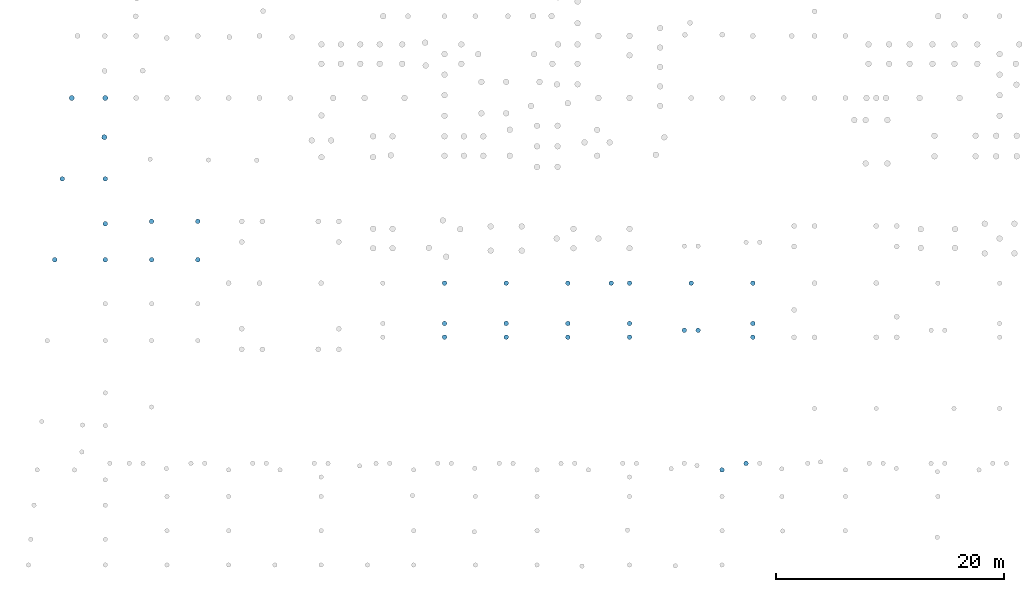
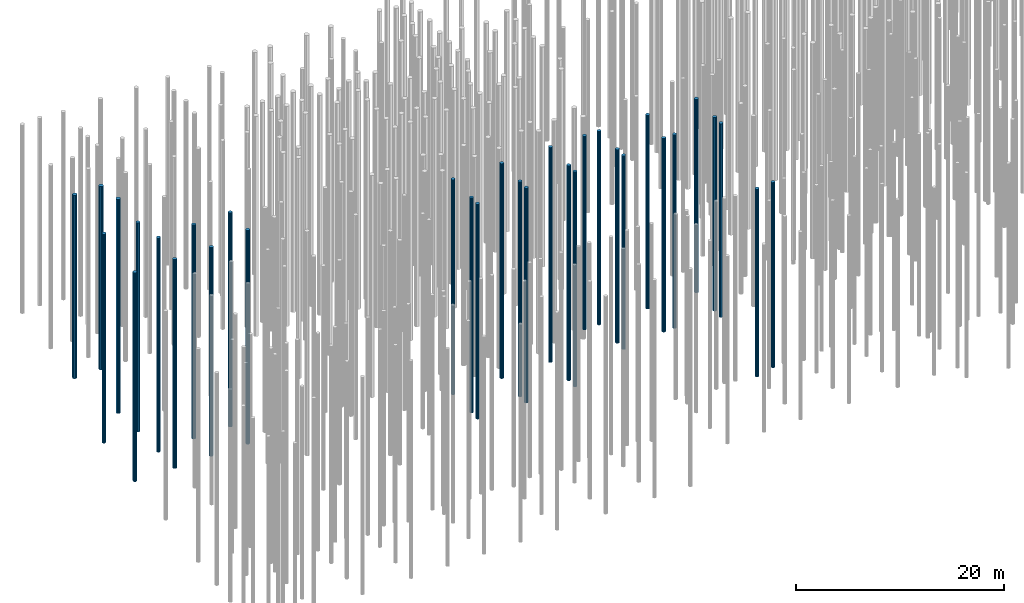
# One storey, part 4 of 20: 33 piles.
"""IFC2X3 building model written with IfcOpenShell, lengths in millimetres."""

from ifc_helpers import new_model, entity, si_unit, converted_unit, derived_unit, direction, frame, origin, place, context, subcontext, project, spatial, polyline, outline, extrude, material, element, save


model = new_model("IFC2X3")

# Units and contexts
model_context = context("Model", 3, precision=0.01, world=origin(), true_north=direction((6.12303176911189e-17, 1.0)))
body_context = subcontext(model_context, "Body", "Model", "MODEL_VIEW")
ifc_project = project(units=[si_unit("LENGTHUNIT", "METRE", prefix="MILLI"), si_unit("AREAUNIT", "SQUARE_METRE"), si_unit("VOLUMEUNIT", "CUBIC_METRE"), converted_unit("PLANEANGLEUNIT", "DEGREE", entity("IfcRatioMeasure", 0.0174532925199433), si_unit("PLANEANGLEUNIT", "RADIAN"), dimensions=[0, 0, 0, 0, 0, 0, 0]), si_unit("MASSUNIT", "GRAM", prefix="KILO"), derived_unit("MASSDENSITYUNIT", [(si_unit("MASSUNIT", "GRAM", prefix="KILO"), 1), (si_unit("LENGTHUNIT", "METRE"), -3)]), si_unit("TIMEUNIT", "SECOND"), si_unit("FREQUENCYUNIT", "HERTZ"), si_unit("THERMODYNAMICTEMPERATUREUNIT", "DEGREE_CELSIUS"), derived_unit("THERMALTRANSMITTANCEUNIT", [(si_unit("MASSUNIT", "GRAM", prefix="KILO"), 1), (si_unit("THERMODYNAMICTEMPERATUREUNIT", "KELVIN"), -1), (si_unit("TIMEUNIT", "SECOND"), -3)]), derived_unit("VOLUMETRICFLOWRATEUNIT", [(si_unit("LENGTHUNIT", "METRE"), 3), (si_unit("TIMEUNIT", "SECOND"), -1)]), si_unit("ELECTRICCURRENTUNIT", "AMPERE"), si_unit("ELECTRICVOLTAGEUNIT", "VOLT"), si_unit("POWERUNIT", "WATT"), si_unit("FORCEUNIT", "NEWTON", prefix="KILO"), si_unit("ILLUMINANCEUNIT", "LUX"), si_unit("LUMINOUSFLUXUNIT", "LUMEN"), si_unit("LUMINOUSINTENSITYUNIT", "CANDELA"), derived_unit("USERDEFINED", [(si_unit("MASSUNIT", "GRAM", prefix="KILO"), -1), (si_unit("LENGTHUNIT", "METRE"), -2), (si_unit("TIMEUNIT", "SECOND"), 3), (si_unit("LUMINOUSFLUXUNIT", "LUMEN"), 1)]), derived_unit("LINEARVELOCITYUNIT", [(si_unit("LENGTHUNIT", "METRE"), 1), (si_unit("TIMEUNIT", "SECOND"), -1)]), si_unit("PRESSUREUNIT", "PASCAL"), derived_unit("USERDEFINED", [(si_unit("LENGTHUNIT", "METRE"), -2), (si_unit("MASSUNIT", "GRAM", prefix="KILO"), 1), (si_unit("TIMEUNIT", "SECOND"), -2)])], contexts=[model_context])

# Site, building, storey
site_placement = place(None, origin())
site = spatial("IfcSite", under=ifc_project, at=site_placement, Name="Default", CompositionType="ELEMENT")
building_placement = place(site_placement, origin())
building = spatial("IfcBuilding", under=site, at=building_placement, Name="niet gebruiken", CompositionType="ELEMENT")
storey_placement = place(building_placement, frame((0.0, 0.0, -4000.0)))
storey = spatial("IfcBuildingStorey", under=building, at=storey_placement, Name="Level t.b.v. palenplan", CompositionType="ELEMENT", Elevation=-4000.0)

# Piles
ifc_material = material(Name="NLRS_f2_beton ihwg")
pile_1_placement = place(storey_placement, origin())
element("IfcPile", 1, at=pile_1_placement, inside=storey, material=ifc_material, Name="NLRS_17.12_SFO_TLB_funderingspaal grondverdringend_gen:Fundex_r410/500", ObjectType="NLRS_17.12_SFO_TLB_funderingspaal grondverdringend_gen:Fundex_r410/500", context=body_context, shape_type="SweptSolid", body=[
    extrude(outline(polyline([(-49.0597111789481, -199.043072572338), (49.0597111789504, -199.043072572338), (135.940144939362, -153.444703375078), (191.67832975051, -72.6940018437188), (203.505319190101, 24.7100194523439), (168.711692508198, 116.453273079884), (95.2682502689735, 181.518485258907), (49.0597111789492, 199.043072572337), (-49.0597111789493, 199.043072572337), (-135.940144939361, 153.444703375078), (-191.67832975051, 72.6940018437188), (-203.505319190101, -24.7100194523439), (-168.711692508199, -116.453273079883), (-95.2682502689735, -181.518485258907), (-49.0597111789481, -199.043072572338)])), frame((62100.0, 8621.0, -19100.0), z_axis=(0.0, 0.0, 1.0), x_axis=(0.239315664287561, -0.970941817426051, 0.0)), (0.0, 0.0, 1.0), 22028.0),
])
pile_2_placement = place(storey_placement, origin())
element("IfcPile", 2, at=pile_2_placement, inside=storey, material=ifc_material, Name="NLRS_17.12_SFO_TLB_funderingspaal grondverdringend_gen:Fundex_r410/500", ObjectType="NLRS_17.12_SFO_TLB_funderingspaal grondverdringend_gen:Fundex_r410/500", context=body_context, shape_type="SweptSolid", body=[
    extrude(outline(polyline([(-49.0597111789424, -199.04307257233), (49.0597111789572, -199.04307257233), (135.94014493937, -153.444703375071), (191.678329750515, -72.6940018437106), (203.505319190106, 24.7100194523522), (168.711692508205, 116.453273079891), (95.2682502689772, 181.518485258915), (49.0597111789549, 199.043072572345), (-49.0597111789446, 199.043072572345), (-135.940144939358, 153.444703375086), (-191.678329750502, 72.6940018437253), (-203.505319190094, -24.7100194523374), (-168.711692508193, -116.453273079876), (-95.2682502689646, -181.518485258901), (-49.0597111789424, -199.04307257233)])), frame((59400.0, 24976.0, -20100.0), z_axis=(0.0, 0.0, 1.0), x_axis=(0.239315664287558, -0.970941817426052, 0.0)), (0.0, 0.0, 1.0), 22720.0),
])
pile_3_placement = place(storey_placement, origin())
element("IfcPile", 3, at=pile_3_placement, inside=storey, material=ifc_material, Name="NLRS_17.12_SFO_TLB_funderingspaal grondverdringend_gen:Fundex_r410/500", ObjectType="NLRS_17.12_SFO_TLB_funderingspaal grondverdringend_gen:Fundex_r410/500", context=body_context, shape_type="SweptSolid", body=[
    extrude(outline(polyline([(-49.0597111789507, -199.043072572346), (49.0597111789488, -199.043072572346), (135.940144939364, -153.444703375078), (191.678329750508, -72.6940018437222), (203.505319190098, 24.7100194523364), (168.711692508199, 116.453273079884), (95.2682502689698, 181.518485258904), (49.0597111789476, 199.043072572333), (-49.0597111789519, 199.043072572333), (-135.940144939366, 153.44470337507), (-191.67832975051, 72.6940018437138), (-203.5053191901, -24.7100194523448), (-168.711692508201, -116.453273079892), (-95.2682502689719, -181.518485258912), (-49.0597111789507, -199.043072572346)])), frame((37800.0, 20246.0, -22600.0), z_axis=(0.0, 0.0, 1.0), x_axis=(0.239315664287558, -0.970941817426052, 0.0)), (0.0, 0.0, 1.0), 25220.0),
])
pile_4_placement = place(storey_placement, origin())
element("IfcPile", 4, at=pile_4_placement, inside=storey, material=ifc_material, Name="NLRS_17.12_SFO_TLB_funderingspaal grondverdringend_gen:Fundex_r410/500", ObjectType="NLRS_17.12_SFO_TLB_funderingspaal grondverdringend_gen:Fundex_r410/500", context=body_context, shape_type="SweptSolid", body=[
    extrude(outline(polyline([(-49.0597111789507, -199.043072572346), (49.0597111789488, -199.043072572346), (135.940144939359, -153.444703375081), (191.678329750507, -72.6940018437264), (203.505319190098, 24.7100194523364), (168.711692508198, 116.45327307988), (95.268250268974, 181.518485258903), (49.0597111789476, 199.043072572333), (-49.0597111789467, 199.043072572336), (-135.940144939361, 153.444703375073), (-191.678329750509, 72.6940018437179), (-203.505319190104, -24.7100194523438), (-168.7116925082, -116.453273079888), (-95.2682502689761, -181.518485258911), (-49.0597111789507, -199.043072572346)])), frame((37800.0, 21446.0, -22600.0), z_axis=(0.0, 0.0, 1.0), x_axis=(-0.970941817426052, -0.239315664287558, 0.0)), (0.0, 0.0, 1.0), 25220.0),
])
pile_5_placement = place(storey_placement, origin())
element("IfcPile", 5, at=pile_5_placement, inside=storey, material=ifc_material, Name="NLRS_17.12_SFO_TLB_funderingspaal grondverdringend_gen:Fundex_r410/500", ObjectType="NLRS_17.12_SFO_TLB_funderingspaal grondverdringend_gen:Fundex_r410/500", context=body_context, shape_type="SweptSolid", body=[
    extrude(outline(polyline([(-49.0597111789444, -199.043072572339), (49.0597111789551, -199.043072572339), (135.94014493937, -153.444703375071), (191.678329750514, -72.6940018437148), (203.505319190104, 24.7100194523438), (168.711692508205, 116.453273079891), (95.2682502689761, 181.518485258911), (49.0597111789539, 199.043072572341), (-49.0597111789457, 199.043072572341), (-135.94014493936, 153.444703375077), (-191.678329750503, 72.6940018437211), (-203.505319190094, -24.7100194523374), (-168.711692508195, -116.453273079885), (-95.2682502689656, -181.518485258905), (-49.0597111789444, -199.043072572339)])), frame((37800.0, 24976.0, -22600.0), z_axis=(0.0, 0.0, 1.0), x_axis=(0.239315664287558, -0.970941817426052, 0.0)), (0.0, 0.0, 1.0), 25220.0),
])
pile_6_placement = place(storey_placement, origin())
element("IfcPile", 6, at=pile_6_placement, inside=storey, material=ifc_material, Name="NLRS_17.12_SFO_TLB_funderingspaal grondverdringend_gen:Fundex_r410/500", ObjectType="NLRS_17.12_SFO_TLB_funderingspaal grondverdringend_gen:Fundex_r410/500", context=body_context, shape_type="SweptSolid", body=[
    extrude(outline(polyline([(-49.0597111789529, -199.043072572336), (49.0597111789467, -199.043072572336), (135.94014493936, -153.444703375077), (191.678329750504, -72.6940018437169), (203.505319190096, 24.7100194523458), (168.711692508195, 116.453273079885), (95.2682502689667, 181.518485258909), (49.0597111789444, 199.043072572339), (-49.0597111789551, 199.043072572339), (-135.940144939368, 153.444703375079), (-191.678329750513, 72.694001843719), (-203.505319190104, -24.7100194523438), (-168.711692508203, -116.453273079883), (-95.2682502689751, -181.518485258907), (-49.0597111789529, -199.043072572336)])), frame((43200.0, 20246.0, -22600.0), z_axis=(0.0, 0.0, 1.0), x_axis=(0.239315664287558, -0.970941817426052, 0.0)), (0.0, 0.0, 1.0), 25220.0),
])
pile_7_placement = place(storey_placement, origin())
element("IfcPile", 7, at=pile_7_placement, inside=storey, material=ifc_material, Name="NLRS_17.12_SFO_TLB_funderingspaal grondverdringend_gen:Fundex_r410/500", ObjectType="NLRS_17.12_SFO_TLB_funderingspaal grondverdringend_gen:Fundex_r410/500", context=body_context, shape_type="SweptSolid", body=[
    extrude(outline(polyline([(-49.0597111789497, -199.043072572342), (49.0597111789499, -199.043072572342), (135.940144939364, -153.444703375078), (191.678329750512, -72.6940018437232), (203.505319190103, 24.7100194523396), (168.711692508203, 116.453273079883), (95.2682502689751, 181.518485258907), (49.0597111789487, 199.043072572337), (-49.0597111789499, 199.043072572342), (-135.940144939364, 153.444703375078), (-191.678329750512, 72.6940018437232), (-203.505319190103, -24.7100194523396), (-168.711692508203, -116.453273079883), (-95.2682502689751, -181.518485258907), (-49.0597111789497, -199.043072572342)])), frame((43200.0, 21446.0, -22600.0), z_axis=(0.0, 0.0, 1.0), x_axis=(-0.970941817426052, -0.239315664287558, 0.0)), (0.0, 0.0, 1.0), 25220.0),
])
pile_8_placement = place(storey_placement, origin())
element("IfcPile", 8, at=pile_8_placement, inside=storey, material=ifc_material, Name="NLRS_17.12_SFO_TLB_funderingspaal grondverdringend_gen:Fundex_r410/500", ObjectType="NLRS_17.12_SFO_TLB_funderingspaal grondverdringend_gen:Fundex_r410/500", context=body_context, shape_type="SweptSolid", body=[
    extrude(outline(polyline([(-49.0597111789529, -199.043072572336), (49.0597111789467, -199.043072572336), (135.94014493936, -153.444703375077), (191.678329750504, -72.6940018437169), (203.505319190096, 24.7100194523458), (168.711692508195, 116.453273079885), (95.2682502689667, 181.518485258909), (49.0597111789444, 199.043072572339), (-49.0597111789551, 199.043072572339), (-135.940144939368, 153.444703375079), (-191.678329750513, 72.694001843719), (-203.505319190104, -24.7100194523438), (-168.711692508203, -116.453273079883), (-95.2682502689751, -181.518485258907), (-49.0597111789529, -199.043072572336)])), frame((43200.0, 24976.0, -22600.0), z_axis=(0.0, 0.0, 1.0), x_axis=(0.239315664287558, -0.970941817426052, 0.0)), (0.0, 0.0, 1.0), 25220.0),
])
pile_9_placement = place(storey_placement, origin())
element("IfcPile", 9, at=pile_9_placement, inside=storey, material=ifc_material, Name="NLRS_17.12_SFO_TLB_funderingspaal grondverdringend_gen:Fundex_r410/500", ObjectType="NLRS_17.12_SFO_TLB_funderingspaal grondverdringend_gen:Fundex_r410/500", context=body_context, shape_type="SweptSolid", body=[
    extrude(outline(polyline([(-49.0597111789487, -199.043072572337), (49.0597111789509, -199.043072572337), (135.940144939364, -153.444703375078), (191.678329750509, -72.694001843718), (203.5053191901, 24.7100194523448), (168.711692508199, 116.453273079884), (95.2682502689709, 181.518485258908), (49.0597111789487, 199.043072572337), (-49.0597111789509, 199.043072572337), (-135.940144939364, 153.444703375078), (-191.678329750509, 72.694001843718), (-203.5053191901, -24.7100194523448), (-168.711692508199, -116.453273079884), (-95.2682502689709, -181.518485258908), (-49.0597111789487, -199.043072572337)])), frame((48600.0, 20246.0, -22600.0), z_axis=(0.0, 0.0, 1.0), x_axis=(0.239315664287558, -0.970941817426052, 0.0)), (0.0, 0.0, 1.0), 25220.0),
])
pile_10_placement = place(storey_placement, origin())
element("IfcPile", 10, at=pile_10_placement, inside=storey, material=ifc_material, Name="NLRS_17.12_SFO_TLB_funderingspaal grondverdringend_gen:Fundex_r410/500", ObjectType="NLRS_17.12_SFO_TLB_funderingspaal grondverdringend_gen:Fundex_r410/500", context=body_context, shape_type="SweptSolid", body=[
    extrude(outline(polyline([(-49.0597111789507, -199.043072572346), (49.0597111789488, -199.043072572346), (135.940144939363, -153.444703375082), (191.678329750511, -72.6940018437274), (203.505319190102, 24.7100194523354), (168.711692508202, 116.453273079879), (95.268250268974, 181.518485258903), (49.0597111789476, 199.043072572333), (-49.0597111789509, 199.043072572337), (-135.940144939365, 153.444703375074), (-191.678329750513, 72.694001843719), (-203.505319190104, -24.7100194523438), (-168.711692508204, -116.453273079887), (-95.2682502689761, -181.518485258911), (-49.0597111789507, -199.043072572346)])), frame((48600.0, 21446.0, -22600.0), z_axis=(0.0, 0.0, 1.0), x_axis=(-0.970941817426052, -0.239315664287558, 0.0)), (0.0, 0.0, 1.0), 25220.0),
])
pile_11_placement = place(storey_placement, origin())
element("IfcPile", 11, at=pile_11_placement, inside=storey, material=ifc_material, Name="NLRS_17.12_SFO_TLB_funderingspaal grondverdringend_gen:Fundex_r410/500", ObjectType="NLRS_17.12_SFO_TLB_funderingspaal grondverdringend_gen:Fundex_r410/500", context=body_context, shape_type="SweptSolid", body=[
    extrude(outline(polyline([(-49.0597111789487, -199.043072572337), (49.0597111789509, -199.043072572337), (135.940144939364, -153.444703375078), (191.678329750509, -72.694001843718), (203.5053191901, 24.7100194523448), (168.711692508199, 116.453273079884), (95.2682502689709, 181.518485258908), (49.0597111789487, 199.043072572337), (-49.0597111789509, 199.043072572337), (-135.940144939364, 153.444703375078), (-191.678329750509, 72.694001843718), (-203.5053191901, -24.7100194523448), (-168.711692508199, -116.453273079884), (-95.2682502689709, -181.518485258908), (-49.0597111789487, -199.043072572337)])), frame((48600.0, 24976.0, -22600.0), z_axis=(0.0, 0.0, 1.0), x_axis=(0.239315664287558, -0.970941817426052, 0.0)), (0.0, 0.0, 1.0), 25220.0),
])
pile_12_placement = place(storey_placement, origin())
element("IfcPile", 12, at=pile_12_placement, inside=storey, material=ifc_material, Name="NLRS_17.12_SFO_TLB_funderingspaal grondverdringend_gen:Fundex_r410/500", ObjectType="NLRS_17.12_SFO_TLB_funderingspaal grondverdringend_gen:Fundex_r410/500", context=body_context, shape_type="SweptSolid", body=[
    extrude(outline(polyline([(-49.0597111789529, -199.043072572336), (49.0597111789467, -199.043072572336), (135.94014493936, -153.444703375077), (191.678329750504, -72.6940018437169), (203.505319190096, 24.7100194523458), (168.711692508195, 116.453273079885), (95.2682502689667, 181.518485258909), (49.0597111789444, 199.043072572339), (-49.0597111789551, 199.043072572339), (-135.940144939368, 153.444703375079), (-191.678329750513, 72.694001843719), (-203.505319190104, -24.7100194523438), (-168.711692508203, -116.453273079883), (-95.2682502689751, -181.518485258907), (-49.0597111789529, -199.043072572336)])), frame((54000.0, 20246.0, -20100.0), z_axis=(0.0, 0.0, 1.0), x_axis=(0.239315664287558, -0.970941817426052, 0.0)), (0.0, 0.0, 1.0), 22720.0),
])
pile_13_placement = place(storey_placement, origin())
element("IfcPile", 13, at=pile_13_placement, inside=storey, material=ifc_material, Name="NLRS_17.12_SFO_TLB_funderingspaal grondverdringend_gen:Fundex_r410/500", ObjectType="NLRS_17.12_SFO_TLB_funderingspaal grondverdringend_gen:Fundex_r410/500", context=body_context, shape_type="SweptSolid", body=[
    extrude(outline(polyline([(-49.0597111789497, -199.043072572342), (49.0597111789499, -199.043072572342), (135.940144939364, -153.444703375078), (191.678329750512, -72.6940018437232), (203.505319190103, 24.7100194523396), (168.711692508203, 116.453273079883), (95.2682502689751, 181.518485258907), (49.0597111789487, 199.043072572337), (-49.0597111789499, 199.043072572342), (-135.940144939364, 153.444703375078), (-191.678329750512, 72.6940018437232), (-203.505319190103, -24.7100194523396), (-168.711692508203, -116.453273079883), (-95.2682502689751, -181.518485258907), (-49.0597111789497, -199.043072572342)])), frame((54000.0, 21446.0, -20100.0), z_axis=(0.0, 0.0, 1.0), x_axis=(-0.970941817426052, -0.239315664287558, 0.0)), (0.0, 0.0, 1.0), 22720.0),
])
pile_14_placement = place(storey_placement, origin())
element("IfcPile", 14, at=pile_14_placement, inside=storey, material=ifc_material, Name="NLRS_17.12_SFO_TLB_funderingspaal grondverdringend_gen:Fundex_r410/500", ObjectType="NLRS_17.12_SFO_TLB_funderingspaal grondverdringend_gen:Fundex_r410/500", context=body_context, shape_type="SweptSolid", body=[
    extrude(outline(polyline([(-49.0597111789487, -199.043072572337), (49.0597111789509, -199.043072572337), (135.940144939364, -153.444703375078), (191.678329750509, -72.694001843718), (203.5053191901, 24.7100194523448), (168.711692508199, 116.453273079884), (95.2682502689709, 181.518485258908), (49.0597111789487, 199.043072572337), (-49.0597111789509, 199.043072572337), (-135.940144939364, 153.444703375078), (-191.678329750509, 72.694001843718), (-203.5053191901, -24.7100194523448), (-168.711692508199, -116.453273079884), (-95.2682502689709, -181.518485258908), (-49.0597111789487, -199.043072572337)])), frame((54000.0, 24976.0, -20100.0), z_axis=(0.0, 0.0, 1.0), x_axis=(0.239315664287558, -0.970941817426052, 0.0)), (0.0, 0.0, 1.0), 22720.0),
])
pile_15_placement = place(storey_placement, origin())
element("IfcPile", 15, at=pile_15_placement, inside=storey, material=ifc_material, Name="NLRS_17.12_SFO_TLB_funderingspaal grondverdringend_gen:Fundex_r410/500", ObjectType="NLRS_17.12_SFO_TLB_funderingspaal grondverdringend_gen:Fundex_r410/500", context=body_context, shape_type="SweptSolid", body=[
    extrude(outline(polyline([(-49.0597111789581, -199.04307257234), (49.0597111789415, -199.04307257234), (135.940144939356, -153.444703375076), (191.678329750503, -72.6940018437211), (203.505319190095, 24.7100194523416), (168.711692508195, 116.453273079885), (95.2682502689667, 181.518485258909), (49.0597111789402, 199.04307257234), (-49.0597111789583, 199.043072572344), (-135.940144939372, 153.44470337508), (-191.67832975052, 72.6940018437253), (-203.505319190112, -24.7100194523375), (-168.711692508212, -116.453273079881), (-95.2682502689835, -181.518485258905), (-49.0597111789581, -199.04307257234)])), frame((58800.0, 20846.0, -20100.0), z_axis=(0.0, 0.0, 1.0), x_axis=(-0.970941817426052, -0.239315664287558, 0.0)), (0.0, 0.0, 1.0), 22720.0),
])
pile_16_placement = place(storey_placement, origin())
element("IfcPile", 16, at=pile_16_placement, inside=storey, material=ifc_material, Name="NLRS_17.12_SFO_TLB_funderingspaal grondverdringend_gen:Fundex_r410/500", ObjectType="NLRS_17.12_SFO_TLB_funderingspaal grondverdringend_gen:Fundex_r410/500", context=body_context, shape_type="SweptSolid", body=[
    extrude(outline(polyline([(-49.0597111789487, -199.043072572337), (49.0597111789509, -199.043072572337), (135.940144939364, -153.444703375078), (191.678329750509, -72.694001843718), (203.5053191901, 24.7100194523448), (168.711692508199, 116.453273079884), (95.2682502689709, 181.518485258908), (49.0597111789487, 199.043072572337), (-49.0597111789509, 199.043072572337), (-135.940144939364, 153.444703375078), (-191.678329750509, 72.694001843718), (-203.5053191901, -24.7100194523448), (-168.711692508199, -116.453273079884), (-95.2682502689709, -181.518485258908), (-49.0597111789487, -199.043072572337)])), frame((60000.0, 20846.0, -20100.0), z_axis=(0.0, 0.0, 1.0), x_axis=(0.239315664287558, -0.970941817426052, 0.0)), (0.0, 0.0, 1.0), 22720.0),
])
pile_17_placement = place(storey_placement, origin())
element("IfcPile", 17, at=pile_17_placement, inside=storey, material=ifc_material, Name="NLRS_17.12_SFO_TLB_funderingspaal grondverdringend_gen:Fundex_r410/500", ObjectType="NLRS_17.12_SFO_TLB_funderingspaal grondverdringend_gen:Fundex_r410/500", context=body_context, shape_type="SweptSolid", body=[
    extrude(outline(polyline([(-49.0597111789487, -199.043072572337), (49.0597111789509, -199.043072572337), (135.940144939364, -153.444703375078), (191.678329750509, -72.694001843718), (203.5053191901, 24.7100194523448), (168.711692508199, 116.453273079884), (95.2682502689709, 181.518485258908), (49.0597111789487, 199.043072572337), (-49.0597111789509, 199.043072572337), (-135.940144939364, 153.444703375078), (-191.678329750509, 72.694001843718), (-203.5053191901, -24.7100194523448), (-168.711692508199, -116.453273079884), (-95.2682502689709, -181.518485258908), (-49.0597111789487, -199.043072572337)])), frame((52390.0, 24976.0, -20100.0), z_axis=(0.0, 0.0, 1.0), x_axis=(0.239315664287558, -0.970941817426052, 0.0)), (0.0, 0.0, 1.0), 22720.0),
])
pile_18_placement = place(storey_placement, origin())
element("IfcPile", 18, at=pile_18_placement, inside=storey, material=ifc_material, Name="NLRS_17.12_SFO_TLB_funderingspaal grondverdringend_gen:Fundex_r410/500", ObjectType="NLRS_17.12_SFO_TLB_funderingspaal grondverdringend_gen:Fundex_r410/500", context=body_context, shape_type="SweptSolid", body=[
    extrude(outline(polyline([(-49.0597111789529, -199.043072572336), (49.0597111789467, -199.043072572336), (135.94014493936, -153.444703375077), (191.678329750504, -72.6940018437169), (203.505319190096, 24.7100194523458), (168.711692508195, 116.453273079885), (95.2682502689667, 181.518485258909), (49.0597111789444, 199.043072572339), (-49.0597111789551, 199.043072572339), (-135.940144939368, 153.444703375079), (-191.678329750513, 72.694001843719), (-203.505319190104, -24.7100194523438), (-168.711692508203, -116.453273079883), (-95.2682502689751, -181.518485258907), (-49.0597111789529, -199.043072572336)])), frame((64800.0, 20246.0, -20100.0), z_axis=(0.0, 0.0, 1.0), x_axis=(0.239315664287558, -0.970941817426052, 0.0)), (0.0, 0.0, 1.0), 22720.0),
])
pile_19_placement = place(storey_placement, origin())
element("IfcPile", 19, at=pile_19_placement, inside=storey, material=ifc_material, Name="NLRS_17.12_SFO_TLB_funderingspaal grondverdringend_gen:Fundex_r410/500", ObjectType="NLRS_17.12_SFO_TLB_funderingspaal grondverdringend_gen:Fundex_r410/500", context=body_context, shape_type="SweptSolid", body=[
    extrude(outline(polyline([(-49.0597111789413, -199.043072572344), (49.0597111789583, -199.043072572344), (135.940144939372, -153.44470337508), (191.67832975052, -72.6940018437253), (203.505319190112, 24.7100194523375), (168.711692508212, 116.453273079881), (95.2682502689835, 181.518485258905), (49.0597111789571, 199.043072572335), (-49.0597111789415, 199.04307257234), (-135.940144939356, 153.444703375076), (-191.678329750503, 72.6940018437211), (-203.505319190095, -24.7100194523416), (-168.711692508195, -116.453273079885), (-95.2682502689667, -181.518485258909), (-49.0597111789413, -199.043072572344)])), frame((64800.0, 21446.0, -20100.0), z_axis=(0.0, 0.0, 1.0), x_axis=(-0.970941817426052, -0.239315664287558, 0.0)), (0.0, 0.0, 1.0), 22720.0),
])
pile_20_placement = place(storey_placement, origin())
element("IfcPile", 20, at=pile_20_placement, inside=storey, material=ifc_material, Name="NLRS_17.12_SFO_TLB_funderingspaal grondverdringend_gen:Fundex_r410/500", ObjectType="NLRS_17.12_SFO_TLB_funderingspaal grondverdringend_gen:Fundex_r410/500", context=body_context, shape_type="SweptSolid", body=[
    extrude(outline(polyline([(-49.0597111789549, -199.043072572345), (49.0597111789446, -199.043072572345), (135.940144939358, -153.444703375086), (191.678329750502, -72.6940018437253), (203.505319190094, 24.7100194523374), (168.711692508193, 116.453273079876), (95.2682502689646, 181.518485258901), (49.0597111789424, 199.04307257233), (-49.0597111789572, 199.04307257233), (-135.94014493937, 153.444703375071), (-191.678329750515, 72.6940018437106), (-203.505319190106, -24.7100194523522), (-168.711692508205, -116.453273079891), (-95.2682502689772, -181.518485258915), (-49.0597111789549, -199.043072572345)])), frame((64800.0, 24976.0, -20100.0), z_axis=(0.0, 0.0, 1.0), x_axis=(0.239315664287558, -0.970941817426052, 0.0)), (0.0, 0.0, 1.0), 22720.0),
])
pile_21_placement = place(storey_placement, origin())
element("IfcPile", 21, at=pile_21_placement, inside=storey, material=ifc_material, Name="NLRS_17.12_SFO_TLB_funderingspaal grondverdringend_gen:Fundex_r410/500", ObjectType="NLRS_17.12_SFO_TLB_funderingspaal grondverdringend_gen:Fundex_r410/500", context=body_context, shape_type="SweptSolid", body=[
    extrude(outline(polyline([(-49.0597111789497, -199.043072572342), (49.0597111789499, -199.043072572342), (135.940144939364, -153.444703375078), (191.678329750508, -72.6940018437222), (203.505319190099, 24.7100194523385), (168.711692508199, 116.453273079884), (95.2682502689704, 181.518485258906), (49.0597111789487, 199.043072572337), (-49.0597111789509, 199.043072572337), (-135.940144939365, 153.444703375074), (-191.678329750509, 72.694001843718), (-203.5053191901, -24.7100194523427), (-168.7116925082, -116.453273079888), (-95.2682502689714, -181.51848525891), (-49.0597111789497, -199.043072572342)])), frame((16200.0, 30381.0, -22100.0), z_axis=(0.0, 0.0, 1.0), x_axis=(0.239315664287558, -0.970941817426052, 0.0)), (0.0, 0.0, 1.0), 25118.0),
])
pile_22_placement = place(storey_placement, origin())
element("IfcPile", 22, at=pile_22_placement, inside=storey, material=ifc_material, Name="NLRS_17.12_SFO_TLB_funderingspaal grondverdringend_gen:Fundex_r410/500", ObjectType="NLRS_17.12_SFO_TLB_funderingspaal grondverdringend_gen:Fundex_r410/500", context=body_context, shape_type="SweptSolid", body=[
    extrude(outline(polyline([(-49.0597111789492, -199.04307257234), (49.0597111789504, -199.04307257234), (135.940144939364, -153.444703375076), (191.678329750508, -72.6940018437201), (203.505319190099, 24.7100194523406), (168.7116925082, 116.453273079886), (95.2682502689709, 181.518485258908), (49.0597111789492, 199.04307257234), (-49.0597111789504, 199.04307257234), (-135.940144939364, 153.444703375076), (-191.678329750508, 72.6940018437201), (-203.505319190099, -24.7100194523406), (-168.7116925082, -116.453273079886), (-95.2682502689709, -181.518485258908), (-49.0597111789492, -199.04307257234)])), frame((16200.0, 27026.0, -22100.0), z_axis=(0.0, 0.0, 1.0), x_axis=(0.239315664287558, -0.970941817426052, 0.0)), (0.0, 0.0, 1.0), 25118.0),
])
pile_23_placement = place(storey_placement, origin())
element("IfcPile", 23, at=pile_23_placement, inside=storey, material=ifc_material, Name="NLRS_17.12_SFO_TLB_funderingspaal grondverdringend_gen:Fundex_r410/500", ObjectType="NLRS_17.12_SFO_TLB_funderingspaal grondverdringend_gen:Fundex_r410/500", context=body_context, shape_type="SweptSolid", body=[
    extrude(outline(polyline([(-49.0597111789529, -199.043072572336), (49.0597111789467, -199.043072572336), (135.940144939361, -153.444703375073), (191.678329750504, -72.6940018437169), (203.505319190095, 24.7100194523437), (168.711692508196, 116.453273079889), (95.2682502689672, 181.518485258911), (49.0597111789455, 199.043072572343), (-49.0597111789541, 199.043072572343), (-135.940144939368, 153.444703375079), (-191.678329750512, 72.6940018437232), (-203.505319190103, -24.7100194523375), (-168.711692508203, -116.453273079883), (-95.2682502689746, -181.518485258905), (-49.0597111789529, -199.043072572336)])), frame((12150.0, 30381.0, -22100.0), z_axis=(0.0, 0.0, 1.0), x_axis=(0.239315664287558, -0.970941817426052, 0.0)), (0.0, 0.0, 1.0), 25118.0),
])
pile_24_placement = place(storey_placement, origin())
element("IfcPile", 24, at=pile_24_placement, inside=storey, material=ifc_material, Name="NLRS_17.12_SFO_TLB_funderingspaal grondverdringend_gen:Fundex_r410/500", ObjectType="NLRS_17.12_SFO_TLB_funderingspaal grondverdringend_gen:Fundex_r410/500", context=body_context, shape_type="SweptSolid", body=[
    extrude(outline(polyline([(-49.0597111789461, -199.04307257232), (49.0597111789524, -199.04307257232), (135.940144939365, -153.444703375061), (191.678329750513, -72.6940018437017), (203.505319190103, 24.7100194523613), (168.7116925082, 116.453273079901), (95.2682502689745, 181.518485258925), (49.0597111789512, 199.043072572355), (-49.0597111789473, 199.043072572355), (-135.940144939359, 153.444703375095), (-191.678329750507, 72.6940018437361), (-203.505319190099, -24.7100194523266), (-168.711692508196, -116.453273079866), (-95.2682502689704, -181.51848525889), (-49.0597111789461, -199.04307257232)])), frame((64200.0, 9196.0, -19100.0), z_axis=(0.0, 0.0, 1.0), x_axis=(0.239315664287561, -0.970941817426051, 0.0)), (0.0, 0.0, 1.0), 21720.0),
])
pile_25_placement = place(storey_placement, origin())
element("IfcPile", 25, at=pile_25_placement, inside=storey, material=ifc_material, Name="NLRS_17.12_SFO_TLB_funderingspaal grondverdringend_gen:Fundex_r410/500", ObjectType="NLRS_17.12_SFO_TLB_funderingspaal grondverdringend_gen:Fundex_r410/500", context=body_context, shape_type="SweptSolid", body=[
    extrude(outline(polyline([(-49.0597111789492, -199.04307257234), (49.0597111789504, -199.04307257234), (135.940144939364, -153.444703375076), (191.678329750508, -72.6940018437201), (203.505319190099, 24.7100194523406), (168.7116925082, 116.453273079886), (95.2682502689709, 181.518485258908), (49.0597111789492, 199.04307257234), (-49.0597111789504, 199.04307257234), (-135.940144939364, 153.444703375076), (-191.678329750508, 72.6940018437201), (-203.505319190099, -24.7100194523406), (-168.7116925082, -116.453273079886), (-95.2682502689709, -181.518485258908), (-49.0597111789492, -199.04307257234)])), frame((12150.0, 27026.0, -22100.0), z_axis=(0.0, 0.0, 1.0), x_axis=(0.239315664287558, -0.970941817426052, 0.0)), (0.0, 0.0, 1.0), 24518.0),
])
pile_26_placement = place(storey_placement, origin())
element("IfcPile", 26, at=pile_26_placement, inside=storey, material=ifc_material, Name="NLRS_17.12_SFO_TLB_funderingspaal grondverdringend_gen:Fundex_r410/500", ObjectType="NLRS_17.12_SFO_TLB_funderingspaal grondverdringend_gen:Fundex_r410/500", context=body_context, shape_type="SweptSolid", body=[
    extrude(outline(polyline([(-49.0597111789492, -199.04307257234), (49.0597111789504, -199.04307257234), (135.940144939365, -153.444703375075), (191.678329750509, -72.694001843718), (203.505319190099, 24.7100194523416), (168.7116925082, 116.453273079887), (95.2682502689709, 181.518485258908), (49.0597111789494, 199.043072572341), (-49.0597111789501, 199.043072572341), (-135.940144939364, 153.444703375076), (-191.678329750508, 72.6940018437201), (-203.505319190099, -24.7100194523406), (-168.711692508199, -116.453273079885), (-95.2682502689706, -181.518485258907), (-49.0597111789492, -199.04307257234)])), frame((8100.0, 27026.0, -22100.0), z_axis=(0.0, 0.0, 1.0), x_axis=(0.239315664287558, -0.970941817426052, 0.0)), (0.0, 0.0, 1.0), 24518.0),
])
pile_27_placement = place(storey_placement, origin())
element("IfcPile", 27, at=pile_27_placement, inside=storey, material=ifc_material, Name="NLRS_17.12_SFO_TLB_funderingspaal grondverdringend_gen:Fundex_r410/500", ObjectType="NLRS_17.12_SFO_TLB_funderingspaal grondverdringend_gen:Fundex_r410/500", context=body_context, shape_type="SweptSolid", body=[
    extrude(outline(polyline([(-49.0597111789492, -199.04307257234), (49.0597111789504, -199.04307257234), (135.940144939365, -153.444703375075), (191.678329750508, -72.694001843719), (203.505319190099, 24.7100194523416), (168.7116925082, 116.453273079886), (95.2682502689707, 181.518485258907), (49.0597111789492, 199.04307257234), (-49.0597111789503, 199.04307257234), (-135.940144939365, 153.444703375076), (-191.678329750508, 72.6940018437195), (-203.505319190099, -24.7100194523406), (-168.7116925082, -116.453273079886), (-95.2682502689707, -181.518485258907), (-49.0597111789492, -199.04307257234)])), frame((3670.0, 27026.0, -22100.0), z_axis=(0.0, 0.0, 1.0), x_axis=(0.239315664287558, -0.970941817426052, 0.0)), (0.0, 0.0, 1.0), 24518.0),
])
pile_28_placement = place(storey_placement, origin())
element("IfcPile", 28, at=pile_28_placement, inside=storey, material=ifc_material, Name="NLRS_17.12_SFO_TLB_funderingspaal grondverdringend_gen:Fundex_r410/500", ObjectType="NLRS_17.12_SFO_TLB_funderingspaal grondverdringend_gen:Fundex_r410/500", context=body_context, shape_type="SweptSolid", body=[
    extrude(outline(polyline([(-49.0597111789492, -199.04307257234), (49.0597111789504, -199.04307257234), (135.940144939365, -153.444703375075), (191.678329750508, -72.694001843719), (203.505319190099, 24.7100194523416), (168.7116925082, 116.453273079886), (95.2682502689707, 181.518485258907), (49.0597111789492, 199.04307257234), (-49.0597111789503, 199.04307257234), (-135.940144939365, 153.444703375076), (-191.678329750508, 72.6940018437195), (-203.505319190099, -24.7100194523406), (-168.7116925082, -116.453273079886), (-95.2682502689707, -181.518485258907), (-49.0597111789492, -199.04307257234)])), frame((4330.0, 34106.0, -22100.0), z_axis=(0.0, 0.0, 1.0), x_axis=(0.239315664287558, -0.970941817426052, 0.0)), (0.0, 0.0, 1.0), 24518.0),
])
pile_29_placement = place(storey_placement, origin())
element("IfcPile", 29, at=pile_29_placement, inside=storey, material=ifc_material, Name="NLRS_17.12_SFO_TLB_funderingspaal grondverdringend_gen:Fundex_r410/500", ObjectType="NLRS_17.12_SFO_TLB_funderingspaal grondverdringend_gen:Fundex_r410/500", context=body_context, shape_type="SweptSolid", body=[
    extrude(outline(polyline([(-49.0597111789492, -199.04307257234), (49.0597111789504, -199.04307257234), (135.940144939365, -153.444703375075), (191.678329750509, -72.694001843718), (203.505319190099, 24.7100194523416), (168.7116925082, 116.453273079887), (95.2682502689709, 181.518485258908), (49.0597111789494, 199.043072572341), (-49.0597111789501, 199.043072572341), (-135.940144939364, 153.444703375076), (-191.678329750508, 72.6940018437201), (-203.505319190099, -24.7100194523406), (-168.711692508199, -116.453273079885), (-95.2682502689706, -181.518485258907), (-49.0597111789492, -199.04307257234)])), frame((8100.0, 34106.0, -22100.0), z_axis=(0.0, 0.0, 1.0), x_axis=(0.239315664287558, -0.970941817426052, 0.0)), (0.0, 0.0, 1.0), 24518.0),
])
pile_30_placement = place(storey_placement, origin())
element("IfcPile", 30, at=pile_30_placement, inside=storey, material=ifc_material, Name="NLRS_17.12_SFO_TLB_funderingspaal grondverdringend_gen:Fundex_r410/500", ObjectType="NLRS_17.12_SFO_TLB_funderingspaal grondverdringend_gen:Fundex_r410/500", context=body_context, shape_type="SweptSolid", body=[
    extrude(outline(polyline([(-49.0597111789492, -199.04307257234), (49.0597111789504, -199.04307257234), (135.940144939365, -153.444703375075), (191.678329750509, -72.694001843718), (203.505319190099, 24.7100194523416), (168.7116925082, 116.453273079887), (95.2682502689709, 181.518485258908), (49.0597111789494, 199.043072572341), (-49.0597111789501, 199.043072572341), (-135.940144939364, 153.444703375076), (-191.678329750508, 72.6940018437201), (-203.505319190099, -24.7100194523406), (-168.711692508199, -116.453273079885), (-95.2682502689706, -181.518485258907), (-49.0597111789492, -199.04307257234)])), frame((8100.0, 30176.0, -22100.0), z_axis=(0.0, 0.0, 1.0), x_axis=(0.239315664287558, -0.970941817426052, 0.0)), (0.0, 0.0, 1.0), 25118.0),
])
pile_31_placement = place(storey_placement, origin())
element("IfcPile", 31, at=pile_31_placement, inside=storey, material=ifc_material, Name="NLRS_17.12_SFO_TLB_funderingspaal grondverdringend_gen:Fundex_r460/560", ObjectType="NLRS_17.12_SFO_TLB_funderingspaal grondverdringend_gen:Fundex_r460/560", context=body_context, shape_type="SweptSolid", body=[
    extrude(outline(polyline([(-25.7518295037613, -228.553808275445), (25.7518295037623, -228.553808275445), (122.367377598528, -194.746565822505), (194.746565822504, -122.367377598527), (228.553808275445, -25.7518295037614), (217.093165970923, 75.9641842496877), (162.634559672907, 162.634559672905), (75.9641842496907, 217.093165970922), (25.7518295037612, 228.553808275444), (-25.7518295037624, 228.553808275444), (-122.367377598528, 194.746565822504), (-194.746565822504, 122.367377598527), (-228.553808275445, 25.7518295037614), (-217.093165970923, -75.9641842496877), (-162.634559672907, -162.634559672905), (-75.9641842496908, -217.093165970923), (-25.7518295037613, -228.553808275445)])), frame((5160.0, 41186.0, -19100.0), z_axis=(0.0, 0.0, 1.0), x_axis=(0.11196447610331, -0.993712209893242, 0.0)), (0.0, 0.0, 1.0), 21518.0),
])
pile_32_placement = place(storey_placement, origin())
element("IfcPile", 32, at=pile_32_placement, inside=storey, material=ifc_material, Name="NLRS_17.12_SFO_TLB_funderingspaal grondverdringend_gen:Fundex_r460/560", ObjectType="NLRS_17.12_SFO_TLB_funderingspaal grondverdringend_gen:Fundex_r460/560", context=body_context, shape_type="SweptSolid", body=[
    extrude(outline(polyline([(-25.7518295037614, -228.553808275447), (25.7518295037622, -228.553808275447), (122.367377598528, -194.746565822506), (194.746565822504, -122.367377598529), (228.553808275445, -25.7518295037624), (217.093165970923, 75.9641842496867), (162.634559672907, 162.634559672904), (75.9641842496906, 217.093165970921), (25.7518295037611, 228.553808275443), (-25.7518295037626, 228.553808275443), (-122.367377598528, 194.746565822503), (-194.746565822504, 122.367377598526), (-228.553808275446, 25.7518295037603), (-217.093165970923, -75.9641842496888), (-162.634559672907, -162.634559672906), (-75.9641842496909, -217.093165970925), (-25.7518295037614, -228.553808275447)])), frame((8100.0, 41186.0, -19100.0), z_axis=(0.0, 0.0, 1.0), x_axis=(0.11196447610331, -0.993712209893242, 0.0)), (0.0, 0.0, 1.0), 21518.0),
])
pile_33_placement = place(storey_placement, origin())
element("IfcPile", 33, at=pile_33_placement, inside=storey, material=ifc_material, Name="NLRS_17.12_SFO_TLB_funderingspaal grondverdringend_gen:Fundex_r460/560", ObjectType="NLRS_17.12_SFO_TLB_funderingspaal grondverdringend_gen:Fundex_r460/560", context=body_context, shape_type="SweptSolid", body=[
    extrude(outline(polyline([(-25.7518295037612, -228.553808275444), (25.7518295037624, -228.553808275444), (122.367377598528, -194.746565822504), (194.746565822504, -122.367377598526), (228.553808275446, -25.7518295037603), (217.093165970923, 75.9641842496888), (162.634559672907, 162.634559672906), (75.9641842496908, 217.093165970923), (25.7518295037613, 228.553808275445), (-25.751829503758, 228.553808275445), (-122.367377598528, 194.746565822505), (-194.746565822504, 122.367377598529), (-228.553808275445, 25.7518295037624), (-217.093165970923, -75.9641842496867), (-162.634559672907, -162.634559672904), (-75.9641842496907, -217.093165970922), (-25.7518295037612, -228.553808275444)])), frame((8014.25074501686, 37755.2432770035, -22100.0), z_axis=(0.0, 0.0, 1.0), x_axis=(0.11196447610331, -0.993712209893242, 0.0)), (0.0, 0.0, 1.0), 25118.0),
])

save(model, "model.ifc")
